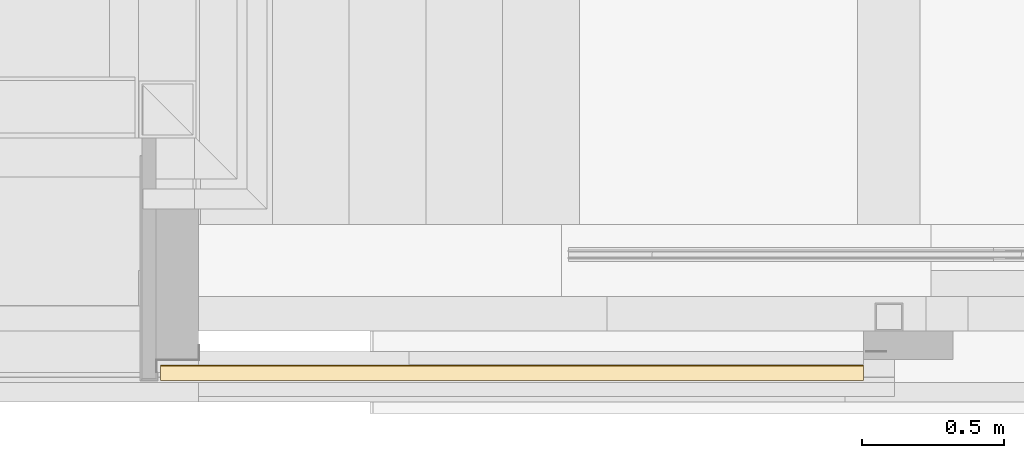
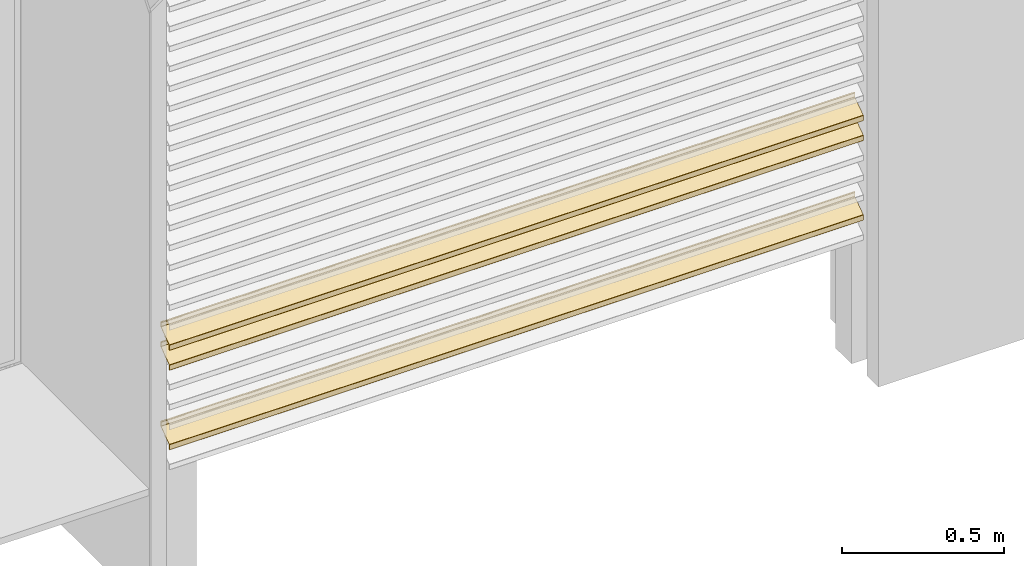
# One storey, part 103 of 165: 3 coverings, 1 element without a shape of its own.
"""IFC2X3 building model written with IfcOpenShell, lengths in millimetres."""

from ifc_helpers import new_model, entity, si_unit, converted_unit, derived_unit, money_unit, direction, frame, origin_with_axes, place, context, subcontext, project, spatial, faceted_brep, material, type_object, element, aggregate, save


model = new_model("IFC2X3")

# Units and contexts
model_context = context("Model", 3, precision=0.01, world=origin_with_axes(), true_north=direction((0.0, 1.0)))
body_context = subcontext(model_context, "Body", "Model", "MODEL_VIEW")
ifc_project = project(units=[si_unit("LENGTHUNIT", "METRE", prefix="MILLI"), si_unit("AREAUNIT", "SQUARE_METRE"), si_unit("VOLUMEUNIT", "CUBIC_METRE"), converted_unit("PLANEANGLEUNIT", "DEGREE", entity("IfcPlaneAngleMeasure", 0.0174532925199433), si_unit("PLANEANGLEUNIT", "RADIAN"), dimensions=[0, 0, 0, 0, 0, 0, 0]), money_unit("EUR"), converted_unit("TIMEUNIT", "Year", entity("IfcTimeMeasure", 31556926.0), si_unit("TIMEUNIT", "SECOND"), dimensions=[0, 0, 1, 0, 0, 0, 0]), si_unit("MASSUNIT", "GRAM", prefix="KILO"), si_unit("THERMODYNAMICTEMPERATUREUNIT", "DEGREE_CELSIUS"), si_unit("LUMINOUSINTENSITYUNIT", "LUMEN"), si_unit("ENERGYUNIT", "JOULE", prefix="MEGA"), derived_unit("THERMALCONDUCTANCEUNIT", [(si_unit("POWERUNIT", "WATT"), 1), (si_unit("LENGTHUNIT", "METRE"), -1), (si_unit("THERMODYNAMICTEMPERATUREUNIT", "KELVIN"), -1)]), derived_unit("SPECIFICHEATCAPACITYUNIT", [(si_unit("ENERGYUNIT", "JOULE"), 1), (si_unit("MASSUNIT", "GRAM", prefix="KILO"), -1), (si_unit("THERMODYNAMICTEMPERATUREUNIT", "KELVIN"), -1)]), derived_unit("MASSDENSITYUNIT", [(si_unit("MASSUNIT", "GRAM", prefix="KILO"), 1), (si_unit("VOLUMEUNIT", "CUBIC_METRE"), -1)])], contexts=[model_context])

# Site, building, storey
site_placement = place(None, origin_with_axes())
site = spatial("IfcSite", under=ifc_project, at=site_placement, Name="Site", CompositionType="ELEMENT")
building_placement = place(site_placement, origin_with_axes())
building = spatial("IfcBuilding", under=site, at=building_placement, Name="Naam gebouw", CompositionType="ELEMENT")
storey_placement = place(building_placement, origin_with_axes())
storey = spatial("IfcBuildingStorey", under=building, at=storey_placement, Name="Begane grond", CompositionType="ELEMENT", Elevation=0.0)

# Beam, coverings
beam_type = type_object("IfcBeamType", Name="30 Duco Louvre deur 55 x 2627", PredefinedType="BEAM")
beam_placement = place(storey_placement, frame((13900.0, -116.9904125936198, 0.0), z_axis=(0.0, 0.0, 1.0), x_axis=(0.0, 1.0, 0.0)))
beam = element("IfcBeam", 1, at=beam_placement, inside=storey, type_object=beam_type, Name="_Regenwaterafvoer-x", ObjectType="BEAM")
ifc_material = material(Name="Metaal - Aluminium")
covering_1_placement = place(beam_placement, origin_with_axes())
covering_1 = element("IfcCovering", 2, at=covering_1_placement, material=ifc_material, Name="Metaal - Aluminium", PredefinedType="NOTDEFINED", context=body_context, shape_type="Brep", body=[
    faceted_brep([(-4.027927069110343, 2473.999999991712, 458.6995018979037), (-56.57357643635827, 2473.999999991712, 421.9066421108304), (-56.57357643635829, 0.0, 421.9066421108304), (-4.027927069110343, 0.0, 458.6995018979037), (-3.900000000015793, 2473.999999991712, 458.9452475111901), (-3.900000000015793, 2473.999999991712, 474.1264285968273), (-3.97589247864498, 2473.999999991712, 474.3258673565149), (-4.165172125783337, 2473.999999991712, 474.4244001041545), (-4.372072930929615, 2473.999999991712, 474.3721742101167), (-5.427927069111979, 2473.999999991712, 473.6328571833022), (-5.634827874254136, 2473.999999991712, 473.5806312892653), (-5.824107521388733, 2473.999999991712, 473.679164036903), (-5.900000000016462, 2473.999999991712, 473.8786027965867), (-5.900000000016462, 2473.999999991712, 475.4656097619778), (-5.772072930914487, 2473.999999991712, 475.7113553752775), (-2.944145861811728, 2473.999999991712, 477.6914912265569), (-2.530344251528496, 2473.999999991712, 477.7959430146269), (-2.15178495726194, 2473.999999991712, 477.5988775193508), (-2.000000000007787, 2473.999999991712, 477.1999999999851), (-2.000000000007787, 2473.999999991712, 458.3205670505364), (-2.42642356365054, 2473.999999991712, 457.5014150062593), (-26.08018232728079, 2473.999999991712, 440.9388748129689), (-26.40000000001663, 2473.999999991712, 440.3245107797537), (-26.40000000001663, 2473.999999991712, 437.127817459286), (-26.61966991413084, 2473.999999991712, 436.5974873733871), (-28.0585786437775, 2473.999999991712, 435.158578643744), (-28.20000000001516, 2473.999999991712, 435.0999999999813), (-28.34142135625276, 2473.999999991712, 435.1585786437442), (-28.40000000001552, 2473.999999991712, 435.2999999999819), (-28.40000000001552, 2473.999999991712, 437.8737843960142), (-28.58973119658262, 2473.999999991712, 438.3723812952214), (-29.06293031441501, 2473.999999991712, 438.6187131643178), (-29.58018232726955, 2473.999999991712, 438.4881484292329), (-30.60000000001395, 2473.999999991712, 437.7740644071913), (-30.60000000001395, 2473.999999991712, 432.5999999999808), (-30.74644660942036, 2473.999999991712, 432.2464466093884), (-31.10000000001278, 2473.999999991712, 432.099999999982), (-32.10000000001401, 2473.999999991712, 432.099999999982), (-32.45355339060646, 2473.999999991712, 432.2464466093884), (-32.60000000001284, 2473.999999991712, 432.5999999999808), (-32.60000000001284, 2473.999999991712, 434.9329127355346), (-32.78973119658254, 2473.999999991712, 435.4315096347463), (-33.26293031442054, 2473.999999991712, 435.677841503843), (-33.78018232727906, 2473.999999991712, 435.547276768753), (-54.97207293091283, 2473.999999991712, 420.7085552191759), (-55.10000000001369, 2473.999999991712, 420.4628096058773), (-55.10000000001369, 2473.999999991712, 404.9735714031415), (-55.02410752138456, 2473.999999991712, 404.7741326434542), (-54.83482787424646, 2473.999999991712, 404.6755998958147), (-54.62792706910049, 2473.999999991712, 404.7278257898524), (-53.57207293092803, 2473.999999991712, 405.4671428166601), (-53.36517212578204, 2473.999999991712, 405.5193687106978), (-53.17589247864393, 2473.999999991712, 405.4208359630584), (-53.1000000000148, 2473.999999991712, 405.221397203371), (-53.1000000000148, 2473.999999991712, 403.6343902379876), (-53.22792706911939, 2473.999999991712, 403.3886446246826), (-56.05585413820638, 2473.999999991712, 401.4085087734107), (-56.46965574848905, 2473.999999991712, 401.3040569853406), (-56.84821504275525, 2473.999999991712, 401.5011224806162), (-57.00000000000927, 2473.999999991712, 401.8999999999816), (-57.00000000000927, 2473.999999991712, 421.0874900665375), (-57.00000000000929, 0.0, 421.0874900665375), (-57.00000000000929, 0.0, 401.8999999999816), (-56.84821504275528, 0.0, 401.5011224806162), (-56.46965574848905, 0.0, 401.3040569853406), (-56.05585413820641, 0.0, 401.4085087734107), (-53.22792706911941, 0.0, 403.3886446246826), (-53.10000000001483, 0.0, 403.6343902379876), (-53.10000000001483, 0.0, 405.221397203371), (-53.17589247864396, 0.0, 405.4208359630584), (-53.36517212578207, 0.0, 405.5193687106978), (-53.57207293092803, 0.0, 405.4671428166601), (-54.62792706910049, 0.0, 404.7278257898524), (-54.83482787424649, 0.0, 404.6755998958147), (-55.02410752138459, 0.0, 404.7741326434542), (-55.10000000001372, 0.0, 404.9735714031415), (-55.10000000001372, 0.0, 420.4628096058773), (-54.97207293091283, 0.0, 420.7085552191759), (-33.78018232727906, 0.0, 435.547276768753), (-33.26293031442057, 0.0, 435.677841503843), (-32.78973119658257, 0.0, 435.4315096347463), (-32.60000000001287, 0.0, 434.9329127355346), (-32.60000000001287, 0.0, 432.5999999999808), (-32.45355339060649, 0.0, 432.2464466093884), (-32.10000000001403, 0.0, 432.099999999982), (-31.10000000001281, 0.0, 432.099999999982), (-30.74644660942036, 0.0, 432.2464466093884), (-30.60000000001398, 0.0, 432.5999999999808), (-30.60000000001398, 0.0, 437.7740644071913), (-29.58018232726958, 0.0, 438.4881484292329), (-29.06293031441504, 0.0, 438.6187131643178), (-28.58973119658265, 0.0, 438.3723812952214), (-28.40000000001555, 0.0, 437.8737843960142), (-28.40000000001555, 0.0, 435.2999999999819), (-28.34142135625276, 0.0, 435.1585786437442), (-28.20000000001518, 0.0, 435.0999999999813), (-28.0585786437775, 0.0, 435.158578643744), (-26.61966991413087, 0.0, 436.5974873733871), (-26.40000000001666, 0.0, 437.127817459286), (-26.40000000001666, 0.0, 440.3245107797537), (-26.08018232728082, 0.0, 440.9388748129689), (-2.42642356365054, 0.0, 457.5014150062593), (-2.000000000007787, 0.0, 458.3205670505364), (-2.000000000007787, 0.0, 477.1999999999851), (-2.15178495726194, 0.0, 477.5988775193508), (-2.530344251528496, 0.0, 477.7959430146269), (-2.944145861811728, 0.0, 477.6914912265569), (-5.772072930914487, 0.0, 475.7113553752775), (-5.900000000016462, 0.0, 475.4656097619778), (-5.900000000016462, 0.0, 473.8786027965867), (-5.824107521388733, 0.0, 473.679164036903), (-5.634827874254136, 0.0, 473.5806312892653), (-5.427927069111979, 0.0, 473.6328571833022), (-4.372072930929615, 0.0, 474.3721742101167), (-4.165172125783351, 0.0, 474.4244001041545), (-3.97589247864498, 0.0, 474.3258673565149), (-3.900000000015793, 0.0, 474.1264285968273), (-3.900000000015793, 0.0, 458.9452475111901)], [[[0, 1, 2, 3]], [[0, 4, 5, 6, 7, 8, 9, 10, 11, 12, 13, 14, 15, 16, 17, 18, 19, 20, 21, 22, 23, 24, 25, 26, 27, 28, 29, 30, 31, 32, 33, 34, 35, 36, 37, 38, 39, 40, 41, 42, 43, 44, 45, 46, 47, 48, 49, 50, 51, 52, 53, 54, 55, 56, 57, 58, 59, 60, 1]], [[1, 60, 61, 2]], [[3, 2, 61, 62, 63, 64, 65, 66, 67, 68, 69, 70, 71, 72, 73, 74, 75, 76, 77, 78, 79, 80, 81, 82, 83, 84, 85, 86, 87, 88, 89, 90, 91, 92, 93, 94, 95, 96, 97, 98, 99, 100, 101, 102, 103, 104, 105, 106, 107, 108, 109, 110, 111, 112, 113, 114, 115, 116, 117]], [[4, 0, 3, 117]], [[5, 4, 117, 116]], [[6, 5, 116, 115]], [[7, 6, 115, 114]], [[8, 7, 114, 113]], [[9, 8, 113, 112]], [[10, 9, 112, 111]], [[11, 10, 111, 110]], [[12, 11, 110, 109]], [[13, 12, 109, 108]], [[14, 13, 108, 107]], [[15, 14, 107, 106]], [[16, 15, 106, 105]], [[17, 16, 105, 104]], [[18, 17, 104, 103]], [[19, 18, 103, 102]], [[20, 19, 102, 101]], [[21, 20, 101, 100]], [[22, 21, 100, 99]], [[23, 22, 99, 98]], [[24, 23, 98, 97]], [[25, 24, 97, 96]], [[26, 25, 96, 95]], [[27, 26, 95, 94]], [[28, 27, 94, 93]], [[29, 28, 93, 92]], [[30, 29, 92, 91]], [[31, 30, 91, 90]], [[32, 31, 90, 89]], [[33, 32, 89, 88]], [[34, 33, 88, 87]], [[35, 34, 87, 86]], [[36, 35, 86, 85]], [[37, 36, 85, 84]], [[38, 37, 84, 83]], [[39, 38, 83, 82]], [[40, 39, 82, 81]], [[41, 40, 81, 80]], [[42, 41, 80, 79]], [[43, 42, 79, 78]], [[44, 43, 78, 77]], [[45, 44, 77, 76]], [[46, 45, 76, 75]], [[47, 46, 75, 74]], [[48, 47, 74, 73]], [[49, 48, 73, 72]], [[50, 49, 72, 71]], [[51, 50, 71, 70]], [[52, 51, 70, 69]], [[53, 52, 69, 68]], [[54, 53, 68, 67]], [[55, 54, 67, 66]], [[56, 55, 66, 65]], [[57, 56, 65, 64]], [[58, 57, 64, 63]], [[59, 58, 63, 62]], [[60, 59, 62, 61]]]),
])
covering_2_placement = place(beam_placement, origin_with_axes())
covering_2 = element("IfcCovering", 3, at=covering_2_placement, material=ifc_material, Name="Metaal - Aluminium", PredefinedType="NOTDEFINED", context=body_context, shape_type="Brep", body=[
    faceted_brep([(-4.027927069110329, 2473.999999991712, 533.6995018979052), (-56.57357643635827, 2473.999999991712, 496.9066421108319), (-56.57357643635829, 0.0, 496.9066421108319), (-4.027927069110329, 0.0, 533.6995018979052), (-3.90000000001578, 2473.999999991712, 533.9452475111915), (-3.90000000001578, 2473.999999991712, 549.1264285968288), (-3.975892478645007, 2473.999999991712, 549.3258673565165), (-4.165172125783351, 2473.999999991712, 549.4244001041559), (-4.372072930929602, 2473.999999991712, 549.3721742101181), (-5.427927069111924, 2473.999999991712, 548.6328571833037), (-5.634827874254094, 2473.999999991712, 548.5806312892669), (-5.824107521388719, 2473.999999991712, 548.6791640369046), (-5.900000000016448, 2473.999999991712, 548.8786027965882), (-5.900000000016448, 2473.999999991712, 550.4656097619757), (-5.772072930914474, 2473.999999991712, 550.7113553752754), (-2.944145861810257, 2473.999999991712, 552.6914912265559), (-2.530344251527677, 2473.999999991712, 552.7959430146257), (-2.151784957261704, 2473.999999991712, 552.5988775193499), (-2.000000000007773, 2473.999999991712, 552.1999999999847), (-2.000000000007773, 2473.999999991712, 533.3205670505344), (-2.426423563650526, 2473.999999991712, 532.5014150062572), (-26.08018232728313, 2473.999999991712, 515.9388748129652), (-26.40000000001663, 2473.999999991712, 515.3245107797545), (-26.40000000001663, 2473.999999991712, 512.1278174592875), (-26.6196699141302, 2473.999999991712, 511.5974873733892), (-28.05857864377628, 2473.999999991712, 510.1585786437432), (-28.20000000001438, 2473.999999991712, 510.0999999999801), (-28.3414213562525, 2473.999999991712, 510.1585786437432), (-28.40000000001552, 2473.999999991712, 510.2999999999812), (-28.40000000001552, 2473.999999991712, 512.8737843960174), (-28.58973119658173, 2473.999999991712, 513.3723812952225), (-29.06293031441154, 2473.999999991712, 513.618713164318), (-29.58018232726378, 2473.999999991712, 513.4881484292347), (-30.60000000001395, 2473.999999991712, 512.7740644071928), (-30.60000000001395, 2473.999999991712, 507.5999999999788), (-30.74644660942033, 2473.999999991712, 507.2464466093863), (-31.10000000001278, 2473.999999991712, 507.0999999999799), (-32.10000000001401, 2473.999999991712, 507.0999999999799), (-32.45355339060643, 2473.999999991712, 507.2464466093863), (-32.60000000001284, 2473.999999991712, 507.5999999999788), (-32.60000000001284, 2473.999999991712, 509.9329127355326), (-32.78973119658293, 2473.999999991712, 510.4315096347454), (-33.26293031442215, 2473.999999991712, 510.6778415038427), (-33.78018232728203, 2473.999999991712, 510.5472767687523), (-54.97207293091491, 2473.999999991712, 495.7085552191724), (-55.10000000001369, 2473.999999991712, 495.4628096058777), (-55.10000000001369, 2473.999999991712, 479.973571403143), (-55.02410752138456, 2473.999999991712, 479.7741326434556), (-54.83482787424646, 2473.999999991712, 479.6755998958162), (-54.62792706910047, 2473.999999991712, 479.7278257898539), (-53.572072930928, 2473.999999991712, 480.4671428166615), (-53.36517212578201, 2473.999999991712, 480.5193687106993), (-53.17589247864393, 2473.999999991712, 480.4208359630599), (-53.1000000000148, 2473.999999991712, 480.2213972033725), (-53.1000000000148, 2473.999999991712, 478.6343902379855), (-53.22792706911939, 2473.999999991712, 478.3886446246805), (-56.05585413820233, 2473.999999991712, 476.4085087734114), (-56.46965574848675, 2473.999999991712, 476.3040569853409), (-56.84821504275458, 2473.999999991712, 476.5011224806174), (-57.00000000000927, 2473.999999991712, 476.8999999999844), (-57.00000000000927, 2473.999999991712, 496.087490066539), (-57.00000000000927, 0.0, 496.087490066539), (-57.00000000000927, 0.0, 476.8999999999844), (-56.84821504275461, 0.0, 476.5011224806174), (-56.46965574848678, 0.0, 476.3040569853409), (-56.05585413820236, 0.0, 476.4085087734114), (-53.22792706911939, 0.0, 478.3886446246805), (-53.1000000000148, 0.0, 478.6343902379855), (-53.1000000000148, 0.0, 480.2213972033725), (-53.17589247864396, 0.0, 480.4208359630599), (-53.36517212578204, 0.0, 480.5193687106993), (-53.57207293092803, 0.0, 480.4671428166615), (-54.62792706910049, 0.0, 479.7278257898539), (-54.83482787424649, 0.0, 479.6755998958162), (-55.02410752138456, 0.0, 479.7741326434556), (-55.10000000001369, 0.0, 479.973571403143), (-55.10000000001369, 0.0, 495.4628096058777), (-54.97207293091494, 0.0, 495.7085552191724), (-33.78018232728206, 0.0, 510.5472767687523), (-33.26293031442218, 0.0, 510.6778415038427), (-32.78973119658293, 0.0, 510.4315096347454), (-32.60000000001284, 0.0, 509.9329127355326), (-32.60000000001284, 0.0, 507.5999999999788), (-32.45355339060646, 0.0, 507.2464466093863), (-32.10000000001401, 0.0, 507.0999999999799), (-31.10000000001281, 0.0, 507.0999999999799), (-30.74644660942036, 0.0, 507.2464466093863), (-30.60000000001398, 0.0, 507.5999999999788), (-30.60000000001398, 0.0, 512.7740644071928), (-29.58018232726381, 0.0, 513.4881484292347), (-29.06293031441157, 0.0, 513.618713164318), (-28.58973119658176, 0.0, 513.3723812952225), (-28.40000000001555, 0.0, 512.8737843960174), (-28.40000000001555, 0.0, 510.2999999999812), (-28.3414213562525, 0.0, 510.1585786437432), (-28.20000000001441, 0.0, 510.0999999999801), (-28.05857864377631, 0.0, 510.1585786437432), (-26.6196699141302, 0.0, 511.5974873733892), (-26.40000000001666, 0.0, 512.1278174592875), (-26.40000000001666, 0.0, 515.3245107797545), (-26.08018232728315, 0.0, 515.9388748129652), (-2.426423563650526, 0.0, 532.5014150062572), (-2.000000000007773, 0.0, 533.3205670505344), (-2.000000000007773, 0.0, 552.1999999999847), (-2.151784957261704, 0.0, 552.5988775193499), (-2.530344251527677, 0.0, 552.7959430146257), (-2.944145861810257, 0.0, 552.6914912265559), (-5.772072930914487, 0.0, 550.7113553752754), (-5.900000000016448, 0.0, 550.4656097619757), (-5.900000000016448, 0.0, 548.8786027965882), (-5.824107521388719, 0.0, 548.6791640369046), (-5.634827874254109, 0.0, 548.5806312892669), (-5.427927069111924, 0.0, 548.6328571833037), (-4.372072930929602, 0.0, 549.3721742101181), (-4.165172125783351, 0.0, 549.4244001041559), (-3.975892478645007, 0.0, 549.3258673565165), (-3.90000000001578, 0.0, 549.1264285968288), (-3.90000000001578, 0.0, 533.9452475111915)], [[[0, 1, 2, 3]], [[0, 4, 5, 6, 7, 8, 9, 10, 11, 12, 13, 14, 15, 16, 17, 18, 19, 20, 21, 22, 23, 24, 25, 26, 27, 28, 29, 30, 31, 32, 33, 34, 35, 36, 37, 38, 39, 40, 41, 42, 43, 44, 45, 46, 47, 48, 49, 50, 51, 52, 53, 54, 55, 56, 57, 58, 59, 60, 1]], [[1, 60, 61, 2]], [[3, 2, 61, 62, 63, 64, 65, 66, 67, 68, 69, 70, 71, 72, 73, 74, 75, 76, 77, 78, 79, 80, 81, 82, 83, 84, 85, 86, 87, 88, 89, 90, 91, 92, 93, 94, 95, 96, 97, 98, 99, 100, 101, 102, 103, 104, 105, 106, 107, 108, 109, 110, 111, 112, 113, 114, 115, 116, 117]], [[4, 0, 3, 117]], [[5, 4, 117, 116]], [[6, 5, 116, 115]], [[7, 6, 115, 114]], [[8, 7, 114, 113]], [[9, 8, 113, 112]], [[10, 9, 112, 111]], [[11, 10, 111, 110]], [[12, 11, 110, 109]], [[13, 12, 109, 108]], [[14, 13, 108, 107]], [[15, 14, 107, 106]], [[16, 15, 106, 105]], [[17, 16, 105, 104]], [[18, 17, 104, 103]], [[19, 18, 103, 102]], [[20, 19, 102, 101]], [[21, 20, 101, 100]], [[22, 21, 100, 99]], [[23, 22, 99, 98]], [[24, 23, 98, 97]], [[25, 24, 97, 96]], [[26, 25, 96, 95]], [[27, 26, 95, 94]], [[28, 27, 94, 93]], [[29, 28, 93, 92]], [[30, 29, 92, 91]], [[31, 30, 91, 90]], [[32, 31, 90, 89]], [[33, 32, 89, 88]], [[34, 33, 88, 87]], [[35, 34, 87, 86]], [[36, 35, 86, 85]], [[37, 36, 85, 84]], [[38, 37, 84, 83]], [[39, 38, 83, 82]], [[40, 39, 82, 81]], [[41, 40, 81, 80]], [[42, 41, 80, 79]], [[43, 42, 79, 78]], [[44, 43, 78, 77]], [[45, 44, 77, 76]], [[46, 45, 76, 75]], [[47, 46, 75, 74]], [[48, 47, 74, 73]], [[49, 48, 73, 72]], [[50, 49, 72, 71]], [[51, 50, 71, 70]], [[52, 51, 70, 69]], [[53, 52, 69, 68]], [[54, 53, 68, 67]], [[55, 54, 67, 66]], [[56, 55, 66, 65]], [[57, 56, 65, 64]], [[58, 57, 64, 63]], [[59, 58, 63, 62]], [[60, 59, 62, 61]]]),
])
covering_3_placement = place(beam_placement, origin_with_axes())
covering_3 = element("IfcCovering", 4, at=covering_3_placement, material=ifc_material, Name="Metaal - Aluminium", PredefinedType="NOTDEFINED", context=body_context, shape_type="Brep", body=[
    faceted_brep([(-4.02792706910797, 2473.999999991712, 158.6995018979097), (-56.57357643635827, 2473.999999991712, 121.9066421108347), (-56.57357643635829, 0.0, 121.9066421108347), (-4.027927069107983, 0.0, 158.6995018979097), (-3.90000000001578, 2473.999999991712, 158.9452475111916), (-3.900000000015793, 2473.999999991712, 174.1264285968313), (-3.975892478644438, 2473.999999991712, 174.3258673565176), (-4.165172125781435, 2473.999999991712, 174.4244001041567), (-4.372072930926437, 2473.999999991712, 174.3721742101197), (-5.427927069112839, 2473.999999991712, 173.6328571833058), (-5.634827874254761, 2473.999999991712, 173.5806312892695), (-5.824107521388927, 2473.999999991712, 173.6791640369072), (-5.900000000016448, 2473.999999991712, 173.8786027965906), (-5.900000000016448, 2473.999999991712, 175.4656097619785), (-5.772072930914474, 2473.999999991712, 175.7113553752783), (-2.944145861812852, 2473.999999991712, 177.6914912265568), (-2.530344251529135, 2473.999999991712, 177.7959430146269), (-2.15178495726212, 2473.999999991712, 177.5988775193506), (-2.000000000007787, 2473.999999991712, 177.1999999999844), (-2.000000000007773, 2473.999999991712, 158.3205670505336), (-2.426423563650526, 2473.999999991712, 157.5014150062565), (-26.08018232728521, 2473.999999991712, 140.938874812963), (-26.40000000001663, 2473.999999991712, 140.3245107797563), (-26.40000000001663, 2473.999999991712, 137.1278174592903), (-26.61966991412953, 2473.999999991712, 136.5974873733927), (-28.05857864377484, 2473.999999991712, 135.1585786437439), (-28.20000000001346, 2473.999999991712, 135.0999999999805), (-28.34142135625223, 2473.999999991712, 135.1585786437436), (-28.40000000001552, 2473.999999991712, 135.2999999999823), (-28.40000000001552, 2473.999999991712, 137.8737843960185), (-28.58973119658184, 2473.999999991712, 138.372381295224), (-29.06293031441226, 2473.999999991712, 138.6187131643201), (-29.58018232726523, 2473.999999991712, 138.4881484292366), (-30.60000000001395, 2473.999999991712, 137.7740644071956), (-30.60000000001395, 2473.999999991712, 132.5999999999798), (-30.74644660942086, 2473.999999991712, 132.2464466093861), (-31.10000000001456, 2473.999999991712, 132.0999999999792), (-32.10000000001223, 2473.999999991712, 132.0999999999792), (-32.45355339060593, 2473.999999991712, 132.2464466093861), (-32.60000000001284, 2473.999999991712, 132.5999999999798), (-32.60000000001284, 2473.999999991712, 134.9329127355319), (-32.78973119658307, 2473.999999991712, 135.4315096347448), (-33.26293031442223, 2473.999999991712, 135.677841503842), (-33.78018232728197, 2473.999999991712, 135.5472767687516), (-54.97207293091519, 2473.999999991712, 120.7085552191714), (-55.10000000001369, 2473.999999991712, 120.4628096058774), (-55.10000000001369, 2473.999999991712, 104.9735714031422), (-55.02410752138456, 2473.999999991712, 104.7741326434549), (-54.83482787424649, 2473.999999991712, 104.6755998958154), (-54.62792706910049, 2473.999999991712, 104.7278257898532), (-53.572072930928, 2473.999999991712, 105.4671428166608), (-53.36517212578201, 2473.999999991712, 105.5193687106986), (-53.17589247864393, 2473.999999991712, 105.4208359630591), (-53.1000000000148, 2473.999999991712, 105.2213972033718), (-53.1000000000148, 2473.999999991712, 103.6343902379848), (-53.22792706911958, 2473.999999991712, 103.3886446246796), (-56.05585413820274, 2473.999999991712, 101.408508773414), (-56.46965574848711, 2473.999999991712, 101.3040569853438), (-56.8482150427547, 2473.999999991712, 101.5011224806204), (-57.00000000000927, 2473.999999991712, 101.8999999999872), (-57.00000000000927, 2473.999999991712, 121.0874900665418), (-57.00000000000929, 0.0, 121.0874900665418), (-57.00000000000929, 0.0, 101.8999999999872), (-56.84821504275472, 0.0, 101.5011224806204), (-56.46965574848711, 0.0, 101.3040569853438), (-56.05585413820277, 0.0, 101.408508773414), (-53.22792706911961, 0.0, 103.3886446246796), (-53.10000000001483, 0.0, 103.6343902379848), (-53.10000000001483, 0.0, 105.2213972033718), (-53.17589247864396, 0.0, 105.4208359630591), (-53.36517212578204, 0.0, 105.5193687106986), (-53.57207293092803, 0.0, 105.4671428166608), (-54.62792706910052, 0.0, 104.7278257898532), (-54.83482787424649, 0.0, 104.6755998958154), (-55.02410752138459, 0.0, 104.7741326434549), (-55.10000000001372, 0.0, 104.9735714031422), (-55.10000000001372, 0.0, 120.4628096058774), (-54.97207293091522, 0.0, 120.7085552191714), (-33.780182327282, 0.0, 135.5472767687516), (-33.26293031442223, 0.0, 135.677841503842), (-32.78973119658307, 0.0, 135.4315096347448), (-32.60000000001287, 0.0, 134.9329127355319), (-32.60000000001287, 0.0, 132.5999999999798), (-32.45355339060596, 0.0, 132.2464466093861), (-32.10000000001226, 0.0, 132.0999999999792), (-31.10000000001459, 0.0, 132.0999999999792), (-30.74644660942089, 0.0, 132.2464466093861), (-30.60000000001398, 0.0, 132.5999999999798), (-30.60000000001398, 0.0, 137.7740644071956), (-29.58018232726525, 0.0, 138.4881484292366), (-29.06293031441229, 0.0, 138.6187131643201), (-28.58973119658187, 0.0, 138.372381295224), (-28.40000000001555, 0.0, 137.8737843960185), (-28.40000000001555, 0.0, 135.2999999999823), (-28.34142135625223, 0.0, 135.1585786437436), (-28.20000000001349, 0.0, 135.0999999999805), (-28.05857864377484, 0.0, 135.1585786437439), (-26.61966991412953, 0.0, 136.5974873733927), (-26.40000000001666, 0.0, 137.1278174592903), (-26.40000000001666, 0.0, 140.3245107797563), (-26.08018232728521, 0.0, 140.938874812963), (-2.426423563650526, 0.0, 157.5014150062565), (-2.000000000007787, 0.0, 158.3205670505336), (-2.000000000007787, 0.0, 177.1999999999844), (-2.15178495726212, 0.0, 177.5988775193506), (-2.530344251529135, 0.0, 177.7959430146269), (-2.944145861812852, 0.0, 177.6914912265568), (-5.772072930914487, 0.0, 175.7113553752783), (-5.900000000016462, 0.0, 175.4656097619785), (-5.900000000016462, 0.0, 173.8786027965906), (-5.824107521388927, 0.0, 173.6791640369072), (-5.634827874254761, 0.0, 173.5806312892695), (-5.427927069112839, 0.0, 173.6328571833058), (-4.372072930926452, 0.0, 174.3721742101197), (-4.165172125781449, 0.0, 174.4244001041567), (-3.975892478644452, 0.0, 174.3258673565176), (-3.900000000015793, 0.0, 174.1264285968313), (-3.900000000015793, 0.0, 158.9452475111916)], [[[0, 1, 2, 3]], [[0, 4, 5, 6, 7, 8, 9, 10, 11, 12, 13, 14, 15, 16, 17, 18, 19, 20, 21, 22, 23, 24, 25, 26, 27, 28, 29, 30, 31, 32, 33, 34, 35, 36, 37, 38, 39, 40, 41, 42, 43, 44, 45, 46, 47, 48, 49, 50, 51, 52, 53, 54, 55, 56, 57, 58, 59, 60, 1]], [[1, 60, 61, 2]], [[3, 2, 61, 62, 63, 64, 65, 66, 67, 68, 69, 70, 71, 72, 73, 74, 75, 76, 77, 78, 79, 80, 81, 82, 83, 84, 85, 86, 87, 88, 89, 90, 91, 92, 93, 94, 95, 96, 97, 98, 99, 100, 101, 102, 103, 104, 105, 106, 107, 108, 109, 110, 111, 112, 113, 114, 115, 116, 117]], [[4, 0, 3, 117]], [[5, 4, 117, 116]], [[6, 5, 116, 115]], [[7, 6, 115, 114]], [[8, 7, 114, 113]], [[9, 8, 113, 112]], [[10, 9, 112, 111]], [[11, 10, 111, 110]], [[12, 11, 110, 109]], [[13, 12, 109, 108]], [[14, 13, 108, 107]], [[15, 14, 107, 106]], [[16, 15, 106, 105]], [[17, 16, 105, 104]], [[18, 17, 104, 103]], [[19, 18, 103, 102]], [[20, 19, 102, 101]], [[21, 20, 101, 100]], [[22, 21, 100, 99]], [[23, 22, 99, 98]], [[24, 23, 98, 97]], [[25, 24, 97, 96]], [[26, 25, 96, 95]], [[27, 26, 95, 94]], [[28, 27, 94, 93]], [[29, 28, 93, 92]], [[30, 29, 92, 91]], [[31, 30, 91, 90]], [[32, 31, 90, 89]], [[33, 32, 89, 88]], [[34, 33, 88, 87]], [[35, 34, 87, 86]], [[36, 35, 86, 85]], [[37, 36, 85, 84]], [[38, 37, 84, 83]], [[39, 38, 83, 82]], [[40, 39, 82, 81]], [[41, 40, 81, 80]], [[42, 41, 80, 79]], [[43, 42, 79, 78]], [[44, 43, 78, 77]], [[45, 44, 77, 76]], [[46, 45, 76, 75]], [[47, 46, 75, 74]], [[48, 47, 74, 73]], [[49, 48, 73, 72]], [[50, 49, 72, 71]], [[51, 50, 71, 70]], [[52, 51, 70, 69]], [[53, 52, 69, 68]], [[54, 53, 68, 67]], [[55, 54, 67, 66]], [[56, 55, 66, 65]], [[57, 56, 65, 64]], [[58, 57, 64, 63]], [[59, 58, 63, 62]], [[60, 59, 62, 61]]]),
])
aggregate(beam, [covering_1, covering_2, covering_3])

save(model, "model.ifc")
